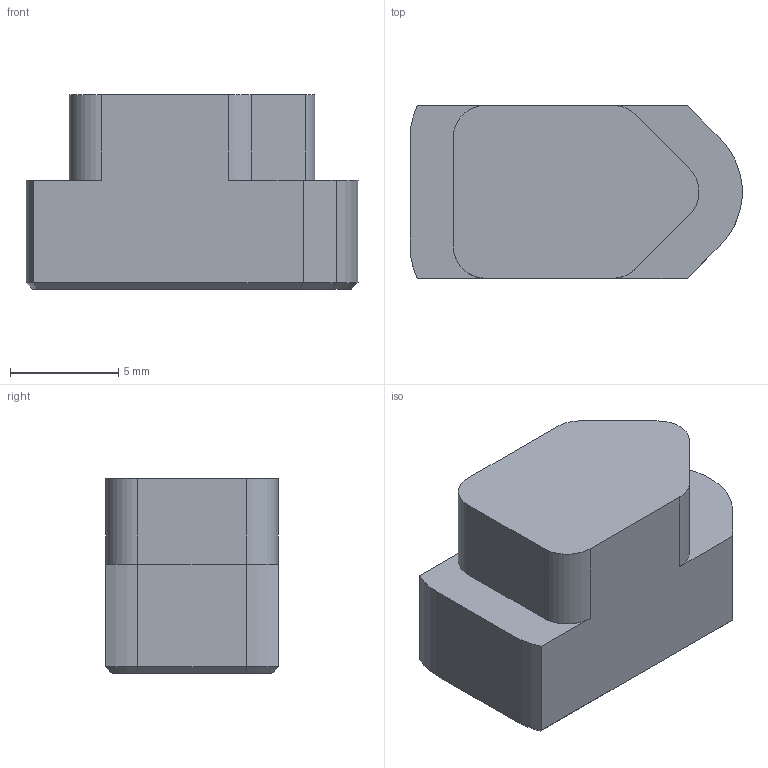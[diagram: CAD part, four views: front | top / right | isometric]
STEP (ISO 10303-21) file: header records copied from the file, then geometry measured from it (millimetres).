
FILE_DESCRIPTION((''),'2;1');
FILE_NAME('0002','2025-04-16T16:50:09',('Mayn'),(''),'CREO PARAMETRIC BY PTC INC, 2024063','CREO PARAMETRIC BY PTC INC, 2024063','');
FILE_SCHEMA(('CONFIG_CONTROL_DESIGN'));
Length unit declared in the file: millimetre
Products named in the file (1): 0002
Bounding box: 15.37 x 8 x 9 mm (x, y, z)
Volume: 881.1 mm3; surface area: 581.2 mm2
Topology: 1 solids, 1 shells, 33 faces, 80 edges, 50 vertices
Faces by surface type: plane 18, cylinder 10, cone 5
Entity records: 1001 total; most frequent: CARTESIAN_POINT 171, DIRECTION 169, ORIENTED_EDGE 160, EDGE_CURVE 80, AXIS2_PLACEMENT_3D 58, VECTOR 53, LINE 53, VERTEX_POINT 50
